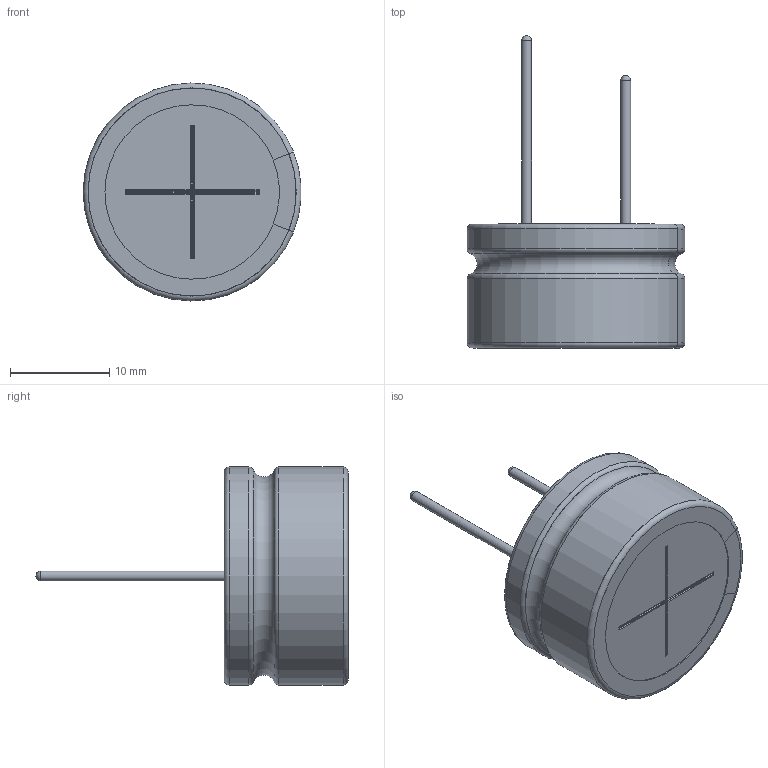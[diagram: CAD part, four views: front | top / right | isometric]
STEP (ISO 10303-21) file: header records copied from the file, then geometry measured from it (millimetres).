
FILE_DESCRIPTION(/* description */ (''),/* implementation_level */ '2;1');
FILE_NAME(/* name */ '22x12.5_Lead.stp',/* time_stamp */ '2017-08-31T16:52:22+09:00',/* author */ (''),/* organization */ (''),/* preprocessor_version */ 'ST-DEVELOPER v16',/* originating_system */ 'SIEMENS PLM Software NX 11.0',/* authorisation */ '');
FILE_SCHEMA (('AUTOMOTIVE_DESIGN { 1 0 10303 214 3 1 1 1 }'));
Length unit declared in the file: millimetre
Products named in the file (1): 22x12.5_Lead_igsstp
Bounding box: 21.97 x 31.5 x 22 mm (x, y, z)
Volume: 4628.5 mm3; surface area: 4010 mm2
Topology: 3 solids, 3 shells, 100 faces, 252 edges, 160 vertices
Faces by surface type: cylinder 36, plane 28, torus 26, sphere 6, bspline 4
Full cylindrical faces by diameter (mm): 1 x2, 21.8 x2
Entity records: 3386 total; most frequent: CARTESIAN_POINT 605, DIRECTION 566, ORIENTED_EDGE 468, AXIS2_PLACEMENT_3D 235, EDGE_CURVE 234, VERTEX_POINT 154, CIRCLE 130, EDGE_LOOP 114
